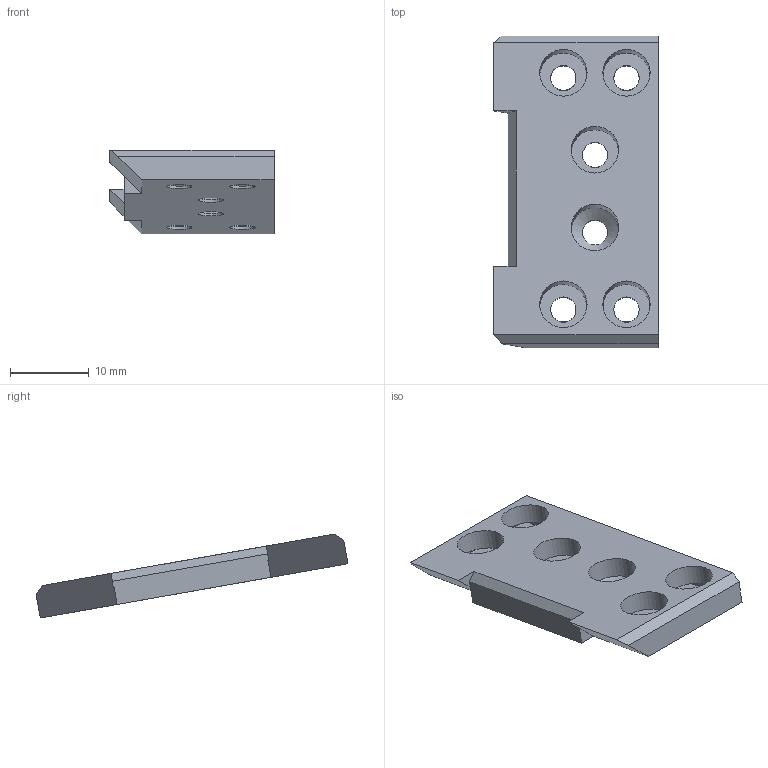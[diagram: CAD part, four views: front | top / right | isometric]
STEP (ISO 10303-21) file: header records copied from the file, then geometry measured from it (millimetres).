
FILE_DESCRIPTION(/* description */ (''),/* implementation_level */ '2;1');
FILE_NAME(/* name */ '4-14-2 Bottom wishbone cap.step',/* time_stamp */ '2025-05-10T22:17:40+02:00',/* author */ (''),/* organization */ (''),/* preprocessor_version */ 'ST-DEVELOPER v20.1',/* originating_system */ 'Autodesk Translation Framework v14.4.0.0',/* authorisation */ '');
FILE_SCHEMA (('AUTOMOTIVE_DESIGN { 1 0 10303 214 3 1 1 }'));
Length unit declared in the file: millimetre
Products named in the file (1): Bottom wishbone cap
Bounding box: 20.8 x 39.52 x 10.64 mm (x, y, z)
Volume: 2402.4 mm3; surface area: 2209.5 mm2
Topology: 1 solids, 1 shells, 33 faces, 83 edges, 52 vertices
Faces by surface type: plane 15, cylinder 12, cone 6
Full cylindrical faces by diameter (mm): 3.2 x6, 6 x6
Entity records: 1047 total; most frequent: DIRECTION 177, CARTESIAN_POINT 169, ORIENTED_EDGE 166, EDGE_CURVE 83, AXIS2_PLACEMENT_3D 60, LINE 57, VECTOR 57, VERTEX_POINT 52
